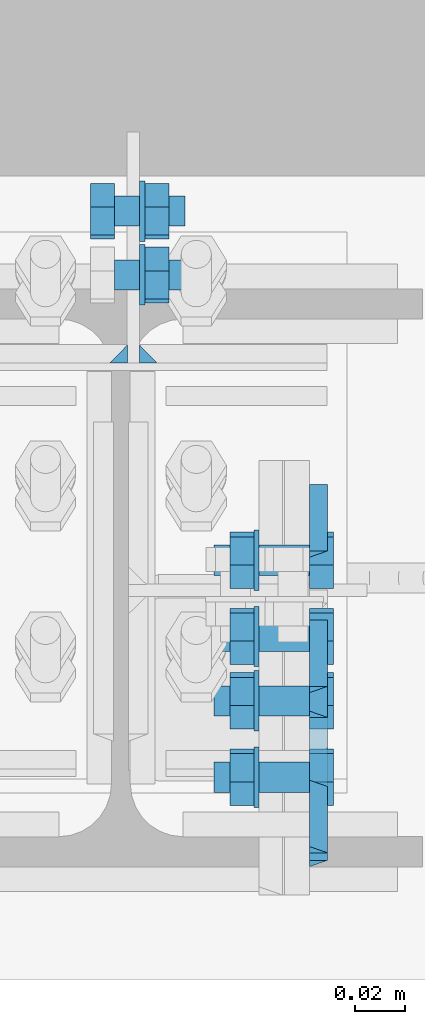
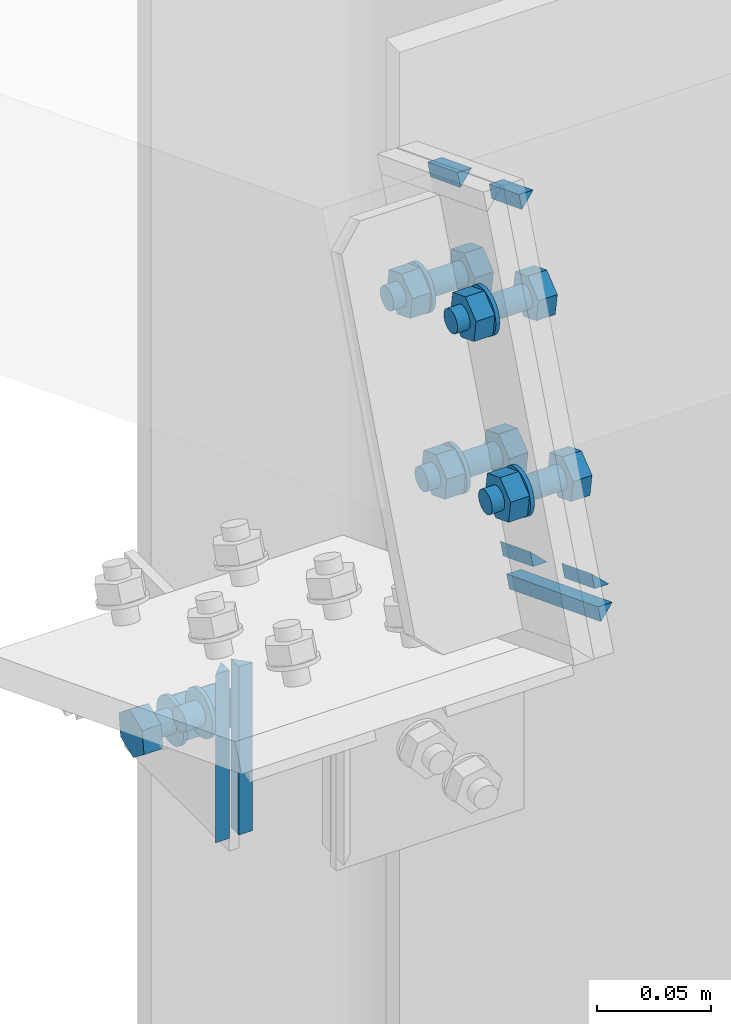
# One storey, part 23 of 72: 23 mechanical fasteners, 12 fasteners.
"""IFC4 building model written with IfcOpenShell, lengths in metres."""

from ifc_helpers import new_model, si_unit, frame, origin_with_axes, place, context, project, spatial, polyline, outline, extrude, type_object, element, save


model = new_model("IFC4")

# Units and contexts
model_context = context("Model", 3, precision=1e-05, world=origin_with_axes())
ifc_project = project(units=[si_unit("LENGTHUNIT", "METRE"), si_unit("AREAUNIT", "SQUARE_METRE"), si_unit("VOLUMEUNIT", "CUBIC_METRE"), si_unit("MASSUNIT", "GRAM", prefix="KILO"), si_unit("TIMEUNIT", "SECOND"), si_unit("PLANEANGLEUNIT", "RADIAN"), si_unit("SOLIDANGLEUNIT", "STERADIAN"), si_unit("THERMODYNAMICTEMPERATUREUNIT", "DEGREE_CELSIUS")], contexts=[model_context])

# Site, building, storey
placement_1 = place(None, origin_with_axes())
site = spatial("IfcSite", under=ifc_project, at=placement_1, Name="Italia", CompositionType="ELEMENT")
building = spatial("IfcBuilding", under=site, at=placement_1, Name="Uffici", CompositionType="ELEMENT")
storey = spatial("IfcBuildingStorey", under=building, at=placement_1, Name="Storey 0", CompositionType="ELEMENT", Elevation=0.0)

# Mechanical fasteners
mechanical_fastener_type_1 = type_object("IfcMechanicalFastenerType", Name="Collegamento 0201_0106", PredefinedType="BOLT")
placement_2 = place(placement_1, origin_with_axes())
mechanical_fastener_1_placement = place(placement_2, origin_with_axes())
element("IfcMechanicalFastener", 1, at=mechanical_fastener_1_placement, inside=storey, type_object=mechanical_fastener_type_1, Name="Collegamento 0201_0106", NominalDiameter=0.012, context=model_context, shape_type="SweptSolid", body=[
    extrude(outline(polyline([(0.0, 0.0), (-0.000204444, -0.00155306), (-0.000803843, -0.00299978), (-0.00175735, -0.00424242), (-0.003, -0.00519609), (-0.00444708, -0.00579548), (-0.006, -0.00600004), (-0.00755291, -0.00579548), (-0.009, -0.00519609), (-0.0102426, -0.00424242), (-0.0111962, -0.00299978), (-0.0117956, -0.00155306), (-0.012, 0.0), (-0.0117956, 0.00155306), (-0.0111962, 0.00299978), (-0.0102426, 0.00424242), (-0.009, 0.00519609), (-0.00755291, 0.00579548), (-0.006, 0.00600004), (-0.00444708, 0.00579548), (-0.003, 0.00519609), (-0.00175735, 0.00424242), (-0.000803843, 0.00299978), (-0.000204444, 0.00155306), (0.0, 0.0)])), frame((0.0255, 0.114562, 6.89466), z_axis=(-1.0, 0.0, 0.0), x_axis=(0.0, -1.0, 0.0)), (0.0, 0.0, 1.0), 0.028),
])
mechanical_fastener_type_2 = type_object("IfcMechanicalFastenerType", Name="Collegamento 0201_0106", PredefinedType="BOLT")
mechanical_fastener_2_placement = place(placement_2, origin_with_axes())
element("IfcMechanicalFastener", 2, at=mechanical_fastener_2_placement, inside=storey, type_object=mechanical_fastener_type_2, Name="Collegamento 0201_0106", NominalDiameter=0.0119997, context=model_context, shape_type="SweptSolid", body=[
    extrude(outline(polyline([(0.0, 0.0), (0.00950524, 0.00732422), (0.00791456, 0.0192184), (-0.0031814, 0.023788), (-0.0126866, 0.0164633), (-0.0110959, 0.00456905), (0.0, 0.0)])), frame((0.0191, 0.118972, 6.88276), z_axis=(-1.0, 0.0, 0.0), x_axis=(0.0, -1.0, 0.0)), (0.0, 0.0, 1.0), 0.0096),
])
mechanical_fastener_type_3 = type_object("IfcMechanicalFastenerType", Name="Collegamento 0201_0106", PredefinedType="BOLT")
mechanical_fastener_3_placement = place(placement_2, origin_with_axes())
element("IfcMechanicalFastener", 3, at=mechanical_fastener_3_placement, inside=storey, type_object=mechanical_fastener_type_3, Name="Collegamento 0201_0106", NominalDiameter=0.024, context=model_context, shape_type="SweptSolid", body=[
    extrude(outline(polyline([(0.0, 0.0), (-0.000408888, -0.00310564), (-0.0016077, -0.00600004), (-0.00351472, -0.00848532), (-0.006, -0.0103922), (-0.00889418, -0.011591), (-0.012, -0.0120001), (-0.0151058, -0.011591), (-0.018, -0.0103922), (-0.0204853, -0.00848532), (-0.0223923, -0.00600004), (-0.0235911, -0.00310564), (-0.024, 0.0), (-0.0235911, 0.00310564), (-0.0223923, 0.00600004), (-0.0204853, 0.00848532), (-0.018, 0.0103922), (-0.0151058, 0.011591), (-0.012, 0.0120001), (-0.00889418, 0.011591), (-0.006, 0.0103922), (-0.00351471, 0.00848532), (-0.00160769, 0.00600004), (-0.000408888, 0.00310564), (0.0, 0.0)])), frame((0.0095, 0.108562, 6.89466), z_axis=(-1.0, 0.0, 0.0), x_axis=(0.0, -1.0, 0.0)), (0.0, 0.0, 1.0), 0.002),
])
mechanical_fastener_type_4 = type_object("IfcMechanicalFastenerType", Name="Collegamento 0201_0106", PredefinedType="BOLT")
mechanical_fastener_4_placement = place(placement_2, origin_with_axes())
element("IfcMechanicalFastener", 4, at=mechanical_fastener_4_placement, inside=storey, type_object=mechanical_fastener_type_4, Name="Collegamento 0201_0106", NominalDiameter=0.012, context=model_context, shape_type="SweptSolid", body=[
    extrude(outline(polyline([(0.0, 0.0), (0.00950527, 0.0073247), (0.0079146, 0.0192189), (-0.00318137, 0.0237885), (-0.0126866, 0.0164638), (-0.0110959, 0.00456953), (0.0, 0.0)])), frame((-0.0025, 0.144319, 6.86323), z_axis=(-1.0, 0.0, 0.0), x_axis=(0.0, -1.0, 0.0)), (0.0, 0.0, 1.0), 0.0096),
])
mechanical_fastener_type_5 = type_object("IfcMechanicalFastenerType", Name="Collegamento 0201_0106", PredefinedType="BOLT")
mechanical_fastener_5_placement = place(placement_2, origin_with_axes())
element("IfcMechanicalFastener", 5, at=mechanical_fastener_5_placement, inside=storey, type_object=mechanical_fastener_type_5, Name="Collegamento 0201_0106", NominalDiameter=0.012, context=model_context, shape_type="SweptSolid", body=[
    extrude(outline(polyline([(0.0, 0.0), (-0.000204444, -0.00155306), (-0.000803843, -0.00299978), (-0.00175735, -0.00424242), (-0.00299999, -0.00519609), (-0.00444709, -0.00579548), (-0.006, -0.00600004), (-0.00755291, -0.00579548), (-0.009, -0.00519609), (-0.0102426, -0.00424242), (-0.0111962, -0.00299978), (-0.0117956, -0.00155306), (-0.012, 0.0), (-0.0117956, 0.00155306), (-0.0111962, 0.00299978), (-0.0102426, 0.00424242), (-0.009, 0.00519609), (-0.00755291, 0.00579548), (-0.006, 0.00600004), (-0.00444709, 0.00579548), (-0.00299999, 0.00519609), (-0.00175735, 0.00424242), (-0.000803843, 0.00299978), (-0.000204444, 0.00155306), (0.0, 0.0)])), frame((0.0255, 0.13991, 6.87512), z_axis=(-1.0, 0.0, 0.0), x_axis=(0.0, -1.0, 0.0)), (0.0, 0.0, 1.0), 0.028),
])
mechanical_fastener_type_6 = type_object("IfcMechanicalFastenerType", Name="Collegamento 0201_0106", PredefinedType="BOLT")
mechanical_fastener_6_placement = place(placement_2, origin_with_axes())
element("IfcMechanicalFastener", 6, at=mechanical_fastener_6_placement, inside=storey, type_object=mechanical_fastener_type_6, Name="Collegamento 0201_0106", NominalDiameter=0.012, context=model_context, shape_type="SweptSolid", body=[
    extrude(outline(polyline([(0.0, 0.0), (0.00950527, 0.0073247), (0.0079146, 0.0192189), (-0.00318137, 0.0237885), (-0.0126866, 0.0164638), (-0.0110959, 0.00456953), (0.0, 0.0)])), frame((0.0191, 0.144319, 6.86323), z_axis=(-1.0, 0.0, 0.0), x_axis=(0.0, -1.0, 0.0)), (0.0, 0.0, 1.0), 0.0096),
])
mechanical_fastener_type_7 = type_object("IfcMechanicalFastenerType", Name="Collegamento 0201_0106", PredefinedType="BOLT")
mechanical_fastener_7_placement = place(placement_2, origin_with_axes())
element("IfcMechanicalFastener", 7, at=mechanical_fastener_7_placement, inside=storey, type_object=mechanical_fastener_type_7, Name="Collegamento 0201_0106", NominalDiameter=0.024, context=model_context, shape_type="SweptSolid", body=[
    extrude(outline(polyline([(0.0, 0.0), (-0.000408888, -0.00310564), (-0.00160769, -0.00600004), (-0.00351471, -0.00848532), (-0.006, -0.0103922), (-0.00889416, -0.011591), (-0.012, -0.0120001), (-0.0151058, -0.011591), (-0.018, -0.0103922), (-0.0204853, -0.00848532), (-0.0223923, -0.00600004), (-0.0235911, -0.00310564), (-0.024, 0.0), (-0.0235911, 0.00310564), (-0.0223923, 0.00600004), (-0.0204853, 0.00848532), (-0.018, 0.0103922), (-0.0151058, 0.011591), (-0.012, 0.0120001), (-0.00889416, 0.011591), (-0.006, 0.0103922), (-0.00351471, 0.00848532), (-0.00160769, 0.00600004), (-0.000408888, 0.00310564), (0.0, 0.0)])), frame((0.0095, 0.13391, 6.87512), z_axis=(-1.0, 0.0, 0.0), x_axis=(0.0, -1.0, 0.0)), (0.0, 0.0, 1.0), 0.002),
])

# Fasteners
fastener_type_1 = type_object("IfcFastenerType", Name="Collegamento 0201_0106", PredefinedType="WELD")
fastener_1_placement = place(placement_2, origin_with_axes())
element("IfcFastener", 8, at=fastener_1_placement, inside=storey, type_object=fastener_type_1, Name="Collegamento 0201_0106", context=model_context, shape_type="SweptSolid", body=[
    extrude(outline(polyline([(0.0, 0.0), (0.00717336, -0.00695816), (0.0, -0.00695816), (0.0, 0.0)])), frame((0.0144082, 0.08545, 6.94073), z_axis=(0.0, 0.0, -1.0), x_axis=(0.0, 1.0, 0.0)), (0.0, 0.0, 1.0), 0.0901003),
])
fastener_type_2 = type_object("IfcFastenerType", Name="Collegamento 0201_0106", PredefinedType="WELD")
fastener_2_placement = place(placement_2, origin_with_axes())
element("IfcFastener", 9, at=fastener_2_placement, inside=storey, type_object=fastener_type_2, Name="Collegamento 0201_0106", context=model_context, shape_type="SweptSolid", body=[
    extrude(outline(polyline([(0.0, 0.0), (0.00717336, -0.00695816), (0.0, -0.00695816), (0.0, 0.0)])), frame((-0.00440816, 0.08545, 6.85063), z_axis=(0.0, 0.0, 1.0), x_axis=(0.0, 1.0, 0.0)), (0.0, 0.0, 1.0), 0.0900998),
])
fastener_type_3 = type_object("IfcFastenerType", Name="Collegamento 0201_0202", PredefinedType="WELD")
fastener_3_placement = place(placement_2, origin_with_axes())
element("IfcFastener", 10, at=fastener_3_placement, inside=storey, type_object=fastener_type_3, Name="Collegamento 0201_0202", context=model_context, shape_type="SweptSolid", body=[
    extrude(outline(polyline([(0.0, 0.0), (-0.00717336, 0.00695848), (0.0, 0.00695848), (0.0, 0.0)])), frame((0.07495, 0.00818294, 7.2203), z_axis=(0.0, 0.932385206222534, -0.361466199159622), x_axis=(-1.0, 0.0, 0.0)), (0.0, 0.0, 1.0), 0.0283003),
])
fastener_type_4 = type_object("IfcFastenerType", Name="Collegamento 0201_0202", PredefinedType="WELD")
fastener_4_placement = place(placement_2, origin_with_axes())
element("IfcFastener", 11, at=fastener_4_placement, inside=storey, type_object=fastener_type_4, Name="Collegamento 0201_0202", context=model_context, shape_type="SweptSolid", body=[
    extrude(outline(polyline([(0.0, 0.0), (0.00717336, -0.00695801), (0.0, -0.00695801), (0.0, 0.0)])), frame((0.07495, -0.0265838, 7.05233), z_axis=(0.0, -0.932390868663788, 0.36145156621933), x_axis=(1.0, 0.0, 0.0)), (0.0, 0.0, 1.0), 0.0283001),
])
fastener_type_5 = type_object("IfcFastenerType", Name="Collegamento 0201_0202", PredefinedType="WELD")
fastener_5_placement = place(placement_2, origin_with_axes())
element("IfcFastener", 12, at=fastener_5_placement, inside=storey, type_object=fastener_type_5, Name="Collegamento 0201_0202", context=model_context, shape_type="SweptSolid", body=[
    extrude(outline(polyline([(0.0, 0.0), (-0.00717336, 0.00695801), (0.0, 0.00695801), (0.0, 0.0)])), frame((0.07495, -0.114929, 7.06264), z_axis=(0.0, 0.93238765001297, -0.361459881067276), x_axis=(-1.0, 0.0, 0.0)), (0.0, 0.0, 1.0), 0.0861001),
])
fastener_type_6 = type_object("IfcFastenerType", Name="Collegamento 0201_0202", PredefinedType="WELD")
fastener_6_placement = place(placement_2, origin_with_axes())
element("IfcFastener", 13, at=fastener_6_placement, inside=storey, type_object=fastener_type_6, Name="Collegamento 0201_0202", context=model_context, shape_type="SweptSolid", body=[
    extrude(outline(polyline([(0.0, 0.0), (0.00717336, -0.00695753), (0.0, -0.00695753), (0.0, 0.0)])), frame((0.07495, -0.0804757, 7.07322), z_axis=(0.0, -0.932385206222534, 0.361466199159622), x_axis=(1.0, 0.0, 0.0)), (0.0, 0.0, 1.0), 0.0283003),
])
fastener_type_7 = type_object("IfcFastenerType", Name="Collegamento 0201_0202", PredefinedType="WELD")
fastener_7_placement = place(placement_2, origin_with_axes())
element("IfcFastener", 14, at=fastener_7_placement, inside=storey, type_object=fastener_type_7, Name="Collegamento 0201_0202", context=model_context, shape_type="SweptSolid", body=[
    extrude(outline(polyline([(0.0, 0.0), (-0.00717336, 0.00695848), (0.0, 0.00695848), (0.0, 0.0)])), frame((0.07495, -0.0457087, 7.24119), z_axis=(0.0, 0.932388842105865, -0.361456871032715), x_axis=(-1.0, 0.0, 0.0)), (0.0, 0.0, 1.0), 0.0282997),
])
fastener_type_8 = type_object("IfcFastenerType", Name="Collegamento 0201_0202", PredefinedType="WELD")
fastener_8_placement = place(placement_2, origin_with_axes())
element("IfcFastener", 15, at=fastener_8_placement, inside=storey, type_object=fastener_type_8, Name="Collegamento 0201_0202", context=model_context, shape_type="SweptSolid", body=[
    extrude(outline(polyline([(0.0, 0.0), (-0.00717336, 0.00695848), (0.0, 0.00695848), (0.0, 0.0)])), frame((0.07495, 0.00818294, 7.2203), z_axis=(0.0, 0.932385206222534, -0.361466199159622), x_axis=(-1.0, 0.0, 0.0)), (0.0, 0.0, 1.0), 0.0283003),
])
fastener_type_9 = type_object("IfcFastenerType", Name="Collegamento 0201_0202", PredefinedType="WELD")
fastener_9_placement = place(placement_2, origin_with_axes())
element("IfcFastener", 16, at=fastener_9_placement, inside=storey, type_object=fastener_type_9, Name="Collegamento 0201_0202", context=model_context, shape_type="SweptSolid", body=[
    extrude(outline(polyline([(0.0, 0.0), (0.00717336, -0.00695801), (0.0, -0.00695801), (0.0, 0.0)])), frame((0.07495, -0.0265838, 7.05233), z_axis=(0.0, -0.932390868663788, 0.36145156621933), x_axis=(1.0, 0.0, 0.0)), (0.0, 0.0, 1.0), 0.0283001),
])
fastener_type_10 = type_object("IfcFastenerType", Name="Collegamento 0201_0202", PredefinedType="WELD")
fastener_10_placement = place(placement_2, origin_with_axes())
element("IfcFastener", 17, at=fastener_10_placement, inside=storey, type_object=fastener_type_10, Name="Collegamento 0201_0202", context=model_context, shape_type="SweptSolid", body=[
    extrude(outline(polyline([(0.0, 0.0), (-0.00717336, 0.00695801), (0.0, 0.00695801), (0.0, 0.0)])), frame((0.07495, -0.114929, 7.06264), z_axis=(0.0, 0.93238765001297, -0.361459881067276), x_axis=(-1.0, 0.0, 0.0)), (0.0, 0.0, 1.0), 0.0861001),
])
fastener_type_11 = type_object("IfcFastenerType", Name="Collegamento 0201_0202", PredefinedType="WELD")
fastener_11_placement = place(placement_2, origin_with_axes())
element("IfcFastener", 18, at=fastener_11_placement, inside=storey, type_object=fastener_type_11, Name="Collegamento 0201_0202", context=model_context, shape_type="SweptSolid", body=[
    extrude(outline(polyline([(0.0, 0.0), (0.00717336, -0.00695753), (0.0, -0.00695753), (0.0, 0.0)])), frame((0.07495, -0.0804757, 7.07322), z_axis=(0.0, -0.932385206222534, 0.361466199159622), x_axis=(1.0, 0.0, 0.0)), (0.0, 0.0, 1.0), 0.0283003),
])
fastener_type_12 = type_object("IfcFastenerType", Name="Collegamento 0201_0202", PredefinedType="WELD")
fastener_12_placement = place(placement_2, origin_with_axes())
element("IfcFastener", 19, at=fastener_12_placement, inside=storey, type_object=fastener_type_12, Name="Collegamento 0201_0202", context=model_context, shape_type="SweptSolid", body=[
    extrude(outline(polyline([(0.0, 0.0), (-0.00717336, 0.00695848), (0.0, 0.00695848), (0.0, 0.0)])), frame((0.07495, -0.0457087, 7.24119), z_axis=(0.0, 0.932388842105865, -0.361456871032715), x_axis=(-1.0, 0.0, 0.0)), (0.0, 0.0, 1.0), 0.0282997),
])

# Mechanical fasteners
mechanical_fastener_type_8 = type_object("IfcMechanicalFastenerType", Name="Collegamento 0201_0202", PredefinedType="BOLT")
mechanical_fastener_8_placement = place(placement_2, origin_with_axes())
element("IfcMechanicalFastener", 20, at=mechanical_fastener_8_placement, inside=storey, type_object=mechanical_fastener_type_8, Name="Collegamento 0201_0202", NominalDiameter=0.0119999, context=model_context, shape_type="SweptSolid", body=[
    extrude(outline(polyline([(0.0, 0.0), (-0.0111886, 0.00433779), (-0.0130266, 0.0161963), (-0.0036758, 0.0237169), (0.00751284, 0.0193796), (0.00935075, 0.00752115), (0.0, 0.0)])), frame((0.075, -0.0774613, 7.10659), z_axis=(1.0, 0.0, 0.0), x_axis=(0.0, 1.0, 0.0)), (0.0, 0.0, 1.0), 0.0096),
])
mechanical_fastener_type_9 = type_object("IfcMechanicalFastenerType", Name="Collegamento 0201_0202", PredefinedType="BOLT")
mechanical_fastener_9_placement = place(placement_2, origin_with_axes())
element("IfcMechanicalFastener", 21, at=mechanical_fastener_9_placement, inside=storey, type_object=mechanical_fastener_type_9, Name="Collegamento 0201_0202", NominalDiameter=0.012, context=model_context, shape_type="SweptSolid", body=[
    extrude(outline(polyline([(0.0, 0.0), (-0.000204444, -0.00155306), (-0.000803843, -0.00299978), (-0.00175735, -0.00424242), (-0.003, -0.00519609), (-0.00444708, -0.00579548), (-0.006, -0.00600004), (-0.00755291, -0.00579548), (-0.009, -0.00519609), (-0.0102426, -0.00424242), (-0.0111962, -0.00299978), (-0.0117956, -0.00155306), (-0.012, 0.0), (-0.0117956, 0.00155306), (-0.0111962, 0.00299978), (-0.0102426, 0.00424242), (-0.009, 0.00519609), (-0.00755291, 0.00579548), (-0.006, 0.00600004), (-0.00444708, 0.00579548), (-0.003, 0.00519609), (-0.00175735, 0.00424242), (-0.000803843, 0.00299978), (-0.000204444, 0.00155306), (0.0, 0.0)])), frame((0.037, -0.0732992, 7.11844), z_axis=(1.0, 0.0, 0.0), x_axis=(0.0, 1.0, 0.0)), (0.0, 0.0, 1.0), 0.038),
])
mechanical_fastener_type_10 = type_object("IfcMechanicalFastenerType", Name="Collegamento 0201_0202", PredefinedType="BOLT")
mechanical_fastener_10_placement = place(placement_2, origin_with_axes())
element("IfcMechanicalFastener", 22, at=mechanical_fastener_10_placement, inside=storey, type_object=mechanical_fastener_type_10, Name="Collegamento 0201_0202", NominalDiameter=0.0119999, context=model_context, shape_type="SweptSolid", body=[
    extrude(outline(polyline([(0.0, 0.0), (-0.0111886, 0.00433779), (-0.0130266, 0.0161963), (-0.0036758, 0.0237169), (0.00751284, 0.0193796), (0.00935075, 0.00752115), (0.0, 0.0)])), frame((0.0434, -0.0774613, 7.10659), z_axis=(1.0, 0.0, 0.0), x_axis=(0.0, 1.0, 0.0)), (0.0, 0.0, 1.0), 0.0096),
])
mechanical_fastener_type_11 = type_object("IfcMechanicalFastenerType", Name="Collegamento 0201_0202", PredefinedType="BOLT")
mechanical_fastener_11_placement = place(placement_2, origin_with_axes())
element("IfcMechanicalFastener", 23, at=mechanical_fastener_11_placement, inside=storey, type_object=mechanical_fastener_type_11, Name="Collegamento 0201_0202", NominalDiameter=0.024, context=model_context, shape_type="SweptSolid", body=[
    extrude(outline(polyline([(0.0, 0.0), (-0.000408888, -0.00310564), (-0.0016077, -0.00600004), (-0.00351472, -0.00848532), (-0.006, -0.0103922), (-0.00889418, -0.011591), (-0.012, -0.0120001), (-0.0151058, -0.011591), (-0.018, -0.0103922), (-0.0204853, -0.00848532), (-0.0223923, -0.00600004), (-0.0235911, -0.00310564), (-0.024, 0.0), (-0.0235911, 0.00310564), (-0.0223923, 0.00600004), (-0.0204853, 0.00848532), (-0.018, 0.0103922), (-0.0151058, 0.011591), (-0.012, 0.0120001), (-0.00889418, 0.011591), (-0.006, 0.0103922), (-0.00351471, 0.00848532), (-0.00160769, 0.00600004), (-0.000408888, 0.00310564), (0.0, 0.0)])), frame((0.053, -0.0672992, 7.11844), z_axis=(1.0, 0.0, 0.0), x_axis=(0.0, 1.0, 0.0)), (0.0, 0.0, 1.0), 0.002),
])
mechanical_fastener_type_12 = type_object("IfcMechanicalFastenerType", Name="Collegamento 0201_0202", PredefinedType="BOLT")
mechanical_fastener_12_placement = place(placement_2, origin_with_axes())
element("IfcMechanicalFastener", 24, at=mechanical_fastener_12_placement, inside=storey, type_object=mechanical_fastener_type_12, Name="Collegamento 0201_0202", NominalDiameter=0.0119999, context=model_context, shape_type="SweptSolid", body=[
    extrude(outline(polyline([(0.0, 0.0), (-0.0111886, 0.00433731), (-0.0130265, 0.0161958), (-0.00367581, 0.0237169), (0.00751284, 0.0193791), (0.00935074, 0.00752068), (0.0, 0.0)])), frame((0.075, -0.021518, 7.0849), z_axis=(1.0, 0.0, 0.0), x_axis=(0.0, 1.0, 0.0)), (0.0, 0.0, 1.0), 0.0096),
])
mechanical_fastener_type_13 = type_object("IfcMechanicalFastenerType", Name="Collegamento 0201_0202", PredefinedType="BOLT")
mechanical_fastener_13_placement = place(placement_2, origin_with_axes())
element("IfcMechanicalFastener", 25, at=mechanical_fastener_13_placement, inside=storey, type_object=mechanical_fastener_type_13, Name="Collegamento 0201_0202", NominalDiameter=0.012, context=model_context, shape_type="SweptSolid", body=[
    extrude(outline(polyline([(0.0, 0.0), (-0.000204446, -0.00155306), (-0.000803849, -0.00299978), (-0.00175736, -0.00424242), (-0.003, -0.00519609), (-0.00444709, -0.00579548), (-0.006, -0.00600004), (-0.00755292, -0.00579548), (-0.009, -0.00519609), (-0.0102426, -0.00424242), (-0.0111962, -0.00299978), (-0.0117956, -0.00155306), (-0.012, 0.0), (-0.0117956, 0.00155306), (-0.0111962, 0.00299978), (-0.0102426, 0.00424242), (-0.009, 0.00519609), (-0.00755291, 0.00579548), (-0.006, 0.00600004), (-0.00444709, 0.00579548), (-0.003, 0.00519609), (-0.00175736, 0.00424242), (-0.000803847, 0.00299978), (-0.000204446, 0.00155306), (0.0, 0.0)])), frame((0.037, -0.0173559, 7.09676), z_axis=(1.0, 0.0, 0.0), x_axis=(0.0, 1.0, 0.0)), (0.0, 0.0, 1.0), 0.038),
])
mechanical_fastener_type_14 = type_object("IfcMechanicalFastenerType", Name="Collegamento 0201_0202", PredefinedType="BOLT")
mechanical_fastener_14_placement = place(placement_2, origin_with_axes())
element("IfcMechanicalFastener", 26, at=mechanical_fastener_14_placement, inside=storey, type_object=mechanical_fastener_type_14, Name="Collegamento 0201_0202", NominalDiameter=0.0119999, context=model_context, shape_type="SweptSolid", body=[
    extrude(outline(polyline([(0.0, 0.0), (-0.0111886, 0.00433731), (-0.0130265, 0.0161958), (-0.00367581, 0.0237169), (0.00751284, 0.0193791), (0.00935074, 0.00752068), (0.0, 0.0)])), frame((0.0434, -0.021518, 7.0849), z_axis=(1.0, 0.0, 0.0), x_axis=(0.0, 1.0, 0.0)), (0.0, 0.0, 1.0), 0.0096),
])
mechanical_fastener_type_15 = type_object("IfcMechanicalFastenerType", Name="Collegamento 0201_0202", PredefinedType="BOLT")
mechanical_fastener_15_placement = place(placement_2, origin_with_axes())
element("IfcMechanicalFastener", 27, at=mechanical_fastener_15_placement, inside=storey, type_object=mechanical_fastener_type_15, Name="Collegamento 0201_0202", NominalDiameter=0.024, context=model_context, shape_type="SweptSolid", body=[
    extrude(outline(polyline([(0.0, 0.0), (-0.00040889, -0.00310564), (-0.0016077, -0.00600004), (-0.00351472, -0.00848532), (-0.006, -0.0103922), (-0.00889417, -0.011591), (-0.012, -0.0120001), (-0.0151058, -0.011591), (-0.018, -0.0103922), (-0.0204853, -0.00848532), (-0.0223923, -0.00600004), (-0.0235911, -0.00310564), (-0.024, 0.0), (-0.0235911, 0.00310564), (-0.0223923, 0.00600004), (-0.0204853, 0.00848532), (-0.018, 0.0103922), (-0.0151058, 0.011591), (-0.012, 0.0120001), (-0.00889417, 0.011591), (-0.006, 0.0103922), (-0.00351472, 0.00848532), (-0.00160769, 0.00600004), (-0.00040889, 0.00310564), (0.0, 0.0)])), frame((0.053, -0.0113559, 7.09676), z_axis=(1.0, 0.0, 0.0), x_axis=(0.0, 1.0, 0.0)), (0.0, 0.0, 1.0), 0.002),
])
mechanical_fastener_type_16 = type_object("IfcMechanicalFastenerType", Name="Collegamento 0201_0202", PredefinedType="BOLT")
mechanical_fastener_16_placement = place(placement_2, origin_with_axes())
element("IfcMechanicalFastener", 28, at=mechanical_fastener_16_placement, inside=storey, type_object=mechanical_fastener_type_16, Name="Collegamento 0201_0202", NominalDiameter=0.0119999, context=model_context, shape_type="SweptSolid", body=[
    extrude(outline(polyline([(0.0, 0.0), (-0.0111886, 0.00433779), (-0.0130265, 0.0161963), (-0.0036758, 0.0237169), (0.00751284, 0.0193796), (0.00935074, 0.00752115), (0.0, 0.0)])), frame((0.075, -0.0470985, 7.18491), z_axis=(1.0, 0.0, 0.0), x_axis=(0.0, 1.0, 0.0)), (0.0, 0.0, 1.0), 0.0096),
])
mechanical_fastener_type_17 = type_object("IfcMechanicalFastenerType", Name="Collegamento 0201_0202", PredefinedType="BOLT")
mechanical_fastener_17_placement = place(placement_2, origin_with_axes())
element("IfcMechanicalFastener", 29, at=mechanical_fastener_17_placement, inside=storey, type_object=mechanical_fastener_type_17, Name="Collegamento 0201_0202", NominalDiameter=0.012, context=model_context, shape_type="SweptSolid", body=[
    extrude(outline(polyline([(0.0, 0.0), (-0.000204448, -0.00155306), (-0.000803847, -0.00299978), (-0.00175736, -0.00424242), (-0.003, -0.00519609), (-0.00444709, -0.00579548), (-0.006, -0.00600004), (-0.00755291, -0.00579548), (-0.009, -0.00519609), (-0.0102426, -0.00424242), (-0.0111962, -0.00299978), (-0.0117956, -0.00155306), (-0.012, 0.0), (-0.0117956, 0.00155306), (-0.0111962, 0.00299978), (-0.0102426, 0.00424242), (-0.009, 0.00519609), (-0.00755291, 0.00579548), (-0.006, 0.00600004), (-0.00444709, 0.00579548), (-0.003, 0.00519609), (-0.00175736, 0.00424242), (-0.000803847, 0.00299978), (-0.000204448, 0.00155306), (0.0, 0.0)])), frame((0.037, -0.0429364, 7.19676), z_axis=(1.0, 0.0, 0.0), x_axis=(0.0, 1.0, 0.0)), (0.0, 0.0, 1.0), 0.038),
])
mechanical_fastener_type_18 = type_object("IfcMechanicalFastenerType", Name="Collegamento 0201_0202", PredefinedType="BOLT")
mechanical_fastener_18_placement = place(placement_2, origin_with_axes())
element("IfcMechanicalFastener", 30, at=mechanical_fastener_18_placement, inside=storey, type_object=mechanical_fastener_type_18, Name="Collegamento 0201_0202", NominalDiameter=0.0119999, context=model_context, shape_type="SweptSolid", body=[
    extrude(outline(polyline([(0.0, 0.0), (-0.0111886, 0.00433779), (-0.0130265, 0.0161963), (-0.0036758, 0.0237169), (0.00751284, 0.0193796), (0.00935074, 0.00752115), (0.0, 0.0)])), frame((0.0434, -0.0470985, 7.18491), z_axis=(1.0, 0.0, 0.0), x_axis=(0.0, 1.0, 0.0)), (0.0, 0.0, 1.0), 0.0096),
])
mechanical_fastener_type_19 = type_object("IfcMechanicalFastenerType", Name="Collegamento 0201_0202", PredefinedType="BOLT")
mechanical_fastener_19_placement = place(placement_2, origin_with_axes())
element("IfcMechanicalFastener", 31, at=mechanical_fastener_19_placement, inside=storey, type_object=mechanical_fastener_type_19, Name="Collegamento 0201_0202", NominalDiameter=0.024, context=model_context, shape_type="SweptSolid", body=[
    extrude(outline(polyline([(0.0, 0.0), (-0.000408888, -0.00310564), (-0.00160769, -0.00600004), (-0.00351472, -0.00848532), (-0.006, -0.0103922), (-0.00889417, -0.011591), (-0.012, -0.0120001), (-0.0151058, -0.011591), (-0.018, -0.0103922), (-0.0204853, -0.00848532), (-0.0223923, -0.00600004), (-0.0235911, -0.00310564), (-0.024, 0.0), (-0.0235911, 0.00310564), (-0.0223923, 0.00600004), (-0.0204853, 0.00848532), (-0.018, 0.0103922), (-0.0151058, 0.011591), (-0.012, 0.0120001), (-0.00889417, 0.011591), (-0.006, 0.0103922), (-0.00351471, 0.00848532), (-0.00160769, 0.00600004), (-0.000408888, 0.00310564), (0.0, 0.0)])), frame((0.053, -0.0369364, 7.19676), z_axis=(1.0, 0.0, 0.0), x_axis=(0.0, 1.0, 0.0)), (0.0, 0.0, 1.0), 0.002),
])
mechanical_fastener_type_20 = type_object("IfcMechanicalFastenerType", Name="Collegamento 0201_0202", PredefinedType="BOLT")
mechanical_fastener_20_placement = place(placement_2, origin_with_axes())
element("IfcMechanicalFastener", 32, at=mechanical_fastener_20_placement, inside=storey, type_object=mechanical_fastener_type_20, Name="Collegamento 0201_0202", NominalDiameter=0.0119999, context=model_context, shape_type="SweptSolid", body=[
    extrude(outline(polyline([(0.0, 0.0), (-0.0111886, 0.00433731), (-0.0130265, 0.0161958), (-0.0036758, 0.0237169), (0.00751284, 0.0193791), (0.00935074, 0.00752068), (0.0, 0.0)])), frame((0.075, 0.00884473, 7.16322), z_axis=(1.0, 0.0, 0.0), x_axis=(0.0, 1.0, 0.0)), (0.0, 0.0, 1.0), 0.0096),
])
mechanical_fastener_type_21 = type_object("IfcMechanicalFastenerType", Name="Collegamento 0201_0202", PredefinedType="BOLT")
mechanical_fastener_21_placement = place(placement_2, origin_with_axes())
element("IfcMechanicalFastener", 33, at=mechanical_fastener_21_placement, inside=storey, type_object=mechanical_fastener_type_21, Name="Collegamento 0201_0202", NominalDiameter=0.012, context=model_context, shape_type="SweptSolid", body=[
    extrude(outline(polyline([(0.0, 0.0), (-0.000204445, -0.00155306), (-0.000803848, -0.00299978), (-0.00175736, -0.00424242), (-0.003, -0.00519609), (-0.00444709, -0.00579548), (-0.006, -0.00600004), (-0.00755292, -0.00579548), (-0.009, -0.00519609), (-0.0102426, -0.00424242), (-0.0111962, -0.00299978), (-0.0117956, -0.00155306), (-0.012, 0.0), (-0.0117956, 0.00155306), (-0.0111962, 0.00299978), (-0.0102426, 0.00424242), (-0.009, 0.00519609), (-0.00755291, 0.00579548), (-0.006, 0.00600004), (-0.00444709, 0.00579548), (-0.003, 0.00519609), (-0.00175736, 0.00424242), (-0.000803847, 0.00299978), (-0.000204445, 0.00155306), (0.0, 0.0)])), frame((0.037, 0.0130068, 7.17508), z_axis=(1.0, 0.0, 0.0), x_axis=(0.0, 1.0, 0.0)), (0.0, 0.0, 1.0), 0.038),
])
mechanical_fastener_type_22 = type_object("IfcMechanicalFastenerType", Name="Collegamento 0201_0202", PredefinedType="BOLT")
mechanical_fastener_22_placement = place(placement_2, origin_with_axes())
element("IfcMechanicalFastener", 34, at=mechanical_fastener_22_placement, inside=storey, type_object=mechanical_fastener_type_22, Name="Collegamento 0201_0202", NominalDiameter=0.0119999, context=model_context, shape_type="SweptSolid", body=[
    extrude(outline(polyline([(0.0, 0.0), (-0.0111886, 0.00433731), (-0.0130265, 0.0161958), (-0.0036758, 0.0237169), (0.00751284, 0.0193791), (0.00935074, 0.00752068), (0.0, 0.0)])), frame((0.0434, 0.00884473, 7.16322), z_axis=(1.0, 0.0, 0.0), x_axis=(0.0, 1.0, 0.0)), (0.0, 0.0, 1.0), 0.0096),
])
mechanical_fastener_type_23 = type_object("IfcMechanicalFastenerType", Name="Collegamento 0201_0202", PredefinedType="BOLT")
mechanical_fastener_23_placement = place(placement_2, origin_with_axes())
element("IfcMechanicalFastener", 35, at=mechanical_fastener_23_placement, inside=storey, type_object=mechanical_fastener_type_23, Name="Collegamento 0201_0202", NominalDiameter=0.024, context=model_context, shape_type="SweptSolid", body=[
    extrude(outline(polyline([(0.0, 0.0), (-0.00040889, -0.00310564), (-0.0016077, -0.00600004), (-0.00351472, -0.00848532), (-0.006, -0.0103922), (-0.00889417, -0.011591), (-0.012, -0.0120001), (-0.0151058, -0.011591), (-0.018, -0.0103922), (-0.0204853, -0.00848532), (-0.0223923, -0.00600004), (-0.0235911, -0.00310564), (-0.024, 0.0), (-0.0235911, 0.00310564), (-0.0223923, 0.00600004), (-0.0204853, 0.00848532), (-0.018, 0.0103922), (-0.0151058, 0.011591), (-0.012, 0.0120001), (-0.00889417, 0.011591), (-0.006, 0.0103922), (-0.00351472, 0.00848532), (-0.00160769, 0.00600004), (-0.00040889, 0.00310564), (0.0, 0.0)])), frame((0.053, 0.0190068, 7.17508), z_axis=(1.0, 0.0, 0.0), x_axis=(0.0, 1.0, 0.0)), (0.0, 0.0, 1.0), 0.002),
])

save(model, "model.ifc")
